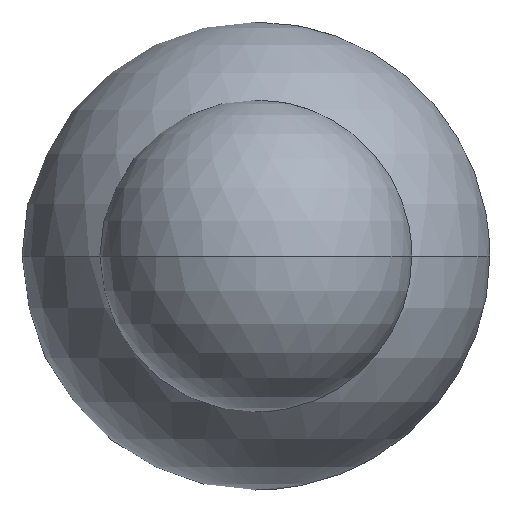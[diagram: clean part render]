
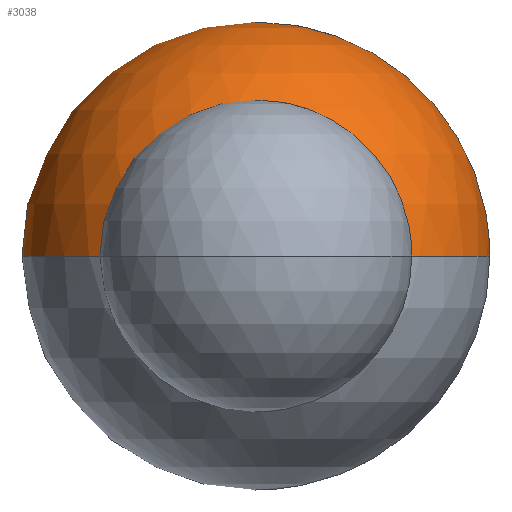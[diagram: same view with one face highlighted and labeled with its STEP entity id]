
A CAD part, front view. The second image highlights one B-rep face of the part: STEP entity #3038.
In plain terms, the highlighted spherical face has radius 150 mm.
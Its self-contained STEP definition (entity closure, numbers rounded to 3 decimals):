
#93 = AXIS2_PLACEMENT_3D ( 'NONE', #1969, #2343, #3141 ) ;
#212 = ORIENTED_EDGE ( 'NONE', *, *, #2448, .F. ) ;
#221 = DIRECTION ( 'NONE',  ( -1., 0., 0. ) ) ;
#290 = CIRCLE ( 'NONE', #2981, 150. ) ;
#726 = CARTESIAN_POINT ( 'NONE',  ( 20., -148.661, 0. ) ) ;
#743 = EDGE_CURVE ( 'NONE', #1765, #2788, #290, .T. ) ;
#810 = CARTESIAN_POINT ( 'NONE',  ( 0., -148.661, 0. ) ) ;
#853 = CARTESIAN_POINT ( 'NONE',  ( 0., 0., 0. ) ) ;
#856 = ORIENTED_EDGE ( 'NONE', *, *, #2862, .T. ) ;
#912 = VERTEX_POINT ( 'NONE', #2002 ) ;
#962 = AXIS2_PLACEMENT_3D ( 'NONE', #810, #3364, #3722 ) ;
#1084 = EDGE_CURVE ( 'NONE', #912, #2788, #3257, .T. ) ;
#1593 = DIRECTION ( 'NONE',  ( 1., 0., 0. ) ) ;
#1628 = AXIS2_PLACEMENT_3D ( 'NONE', #2490, #2837, #2499 ) ;
#1653 = VERTEX_POINT ( 'NONE', #4358 ) ;
#1765 = VERTEX_POINT ( 'NONE', #726 ) ;
#1969 = CARTESIAN_POINT ( 'NONE',  ( 0., 0., 0. ) ) ;
#2002 = CARTESIAN_POINT ( 'NONE',  ( -30., 146.969, 0. ) ) ;
#2282 = EDGE_LOOP ( 'NONE', ( #212, #856, #2573, #2669 ) ) ;
#2343 = DIRECTION ( 'NONE',  ( 0., 0., -1. ) ) ;
#2448 = EDGE_CURVE ( 'NONE', #1653, #912, #3356, .T. ) ;
#2490 = CARTESIAN_POINT ( 'NONE',  ( 0., 0., 0. ) ) ;
#2499 = DIRECTION ( 'NONE',  ( -1., 0., 0. ) ) ;
#2573 = ORIENTED_EDGE ( 'NONE', *, *, #743, .T. ) ;
#2619 = SPHERICAL_SURFACE ( 'NONE', #93, 150. ) ;
#2669 = ORIENTED_EDGE ( 'NONE', *, *, #1084, .F. ) ;
#2788 = VERTEX_POINT ( 'NONE', #4439 ) ;
#2837 = DIRECTION ( 'NONE',  ( 0., 0., -1. ) ) ;
#2862 = EDGE_CURVE ( 'NONE', #1653, #1765, #3525, .T. ) ;
#2901 = AXIS2_PLACEMENT_3D ( 'NONE', #3484, #4225, #221 ) ;
#2981 = AXIS2_PLACEMENT_3D ( 'NONE', #853, #4463, #1593 ) ;
#3038 = ADVANCED_FACE ( 'NONE', ( #3614 ), #2619, .T. ) ;
#3141 = DIRECTION ( 'NONE',  ( 1., 0., 0. ) ) ;
#3257 = CIRCLE ( 'NONE', #2901, 30. ) ;
#3356 = CIRCLE ( 'NONE', #1628, 150. ) ;
#3364 = DIRECTION ( 'NONE',  ( 0., 1., 0. ) ) ;
#3484 = CARTESIAN_POINT ( 'NONE',  ( 0., 146.969, 0. ) ) ;
#3525 = CIRCLE ( 'NONE', #962, 20. ) ;
#3614 = FACE_OUTER_BOUND ( 'NONE', #2282, .T. ) ;
#3722 = DIRECTION ( 'NONE',  ( -1., 0., 0. ) ) ;
#4225 = DIRECTION ( 'NONE',  ( 0., 1., 0. ) ) ;
#4358 = CARTESIAN_POINT ( 'NONE',  ( -20., -148.661, 0. ) ) ;
#4439 = CARTESIAN_POINT ( 'NONE',  ( 30., 146.969, 0. ) ) ;
#4463 = DIRECTION ( 'NONE',  ( 0., 0., 1. ) ) ;
